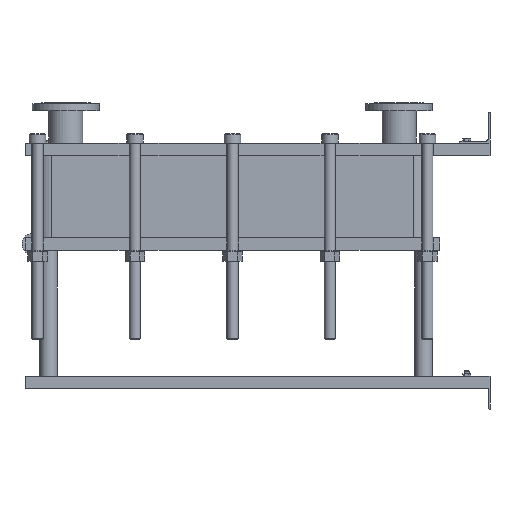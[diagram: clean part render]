
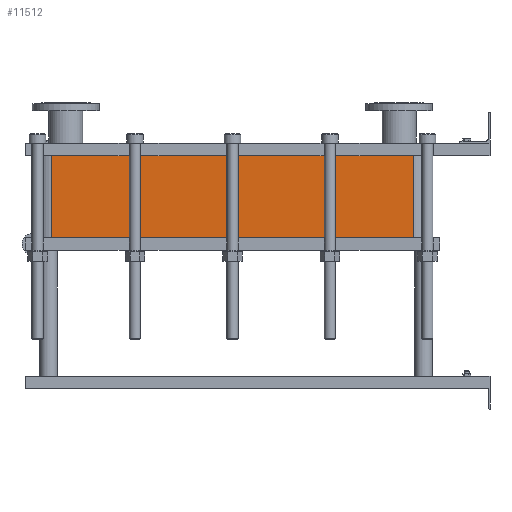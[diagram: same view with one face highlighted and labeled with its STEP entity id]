
A CAD part, left-side view. The second image highlights one B-rep face of the part: STEP entity #11512.
In plain terms, the highlighted planar face has unit normal (-1, 0, 0).
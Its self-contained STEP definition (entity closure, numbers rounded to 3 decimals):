
#1129=LINE('',#23232,#2102);
#1130=LINE('',#23236,#2103);
#1131=LINE('',#23238,#2104);
#1132=LINE('',#23239,#2105);
#2102=VECTOR('',#15887,10.);
#2103=VECTOR('',#15892,10.);
#2104=VECTOR('',#15893,10.);
#2105=VECTOR('',#15894,10.);
#3267=FACE_OUTER_BOUND('',#4093,.T.);
#4093=EDGE_LOOP('',(#10103,#10104,#10105,#10106));
#5642=VERTEX_POINT('',#23229);
#5643=VERTEX_POINT('',#23231);
#5644=VERTEX_POINT('',#23235);
#5645=VERTEX_POINT('',#23237);
#7159=EDGE_CURVE('',#5643,#5642,#1129,.T.);
#7161=EDGE_CURVE('',#5642,#5644,#1130,.T.);
#7162=EDGE_CURVE('',#5645,#5644,#1131,.T.);
#7163=EDGE_CURVE('',#5645,#5643,#1132,.T.);
#10103=ORIENTED_EDGE('',*,*,#7161,.T.);
#10104=ORIENTED_EDGE('',*,*,#7162,.F.);
#10105=ORIENTED_EDGE('',*,*,#7163,.T.);
#10106=ORIENTED_EDGE('',*,*,#7159,.T.);
#10857=PLANE('',#12751);
#11512=ADVANCED_FACE('',(#3267),#10857,.T.);
#12751=AXIS2_PLACEMENT_3D('',#23234,#15890,#15891);
#15887=DIRECTION('',(0.,0.,-1.));
#15890=DIRECTION('center_axis',(-1.,0.,0.));
#15891=DIRECTION('ref_axis',(0.,1.,0.));
#15892=DIRECTION('',(0.,-1.,0.));
#15893=DIRECTION('',(0.,0.,-1.));
#15894=DIRECTION('',(0.,1.,0.));
#23229=CARTESIAN_POINT('',(-200.,1414.,-265.65));
#23231=CARTESIAN_POINT('',(-200.,1414.,0.));
#23232=CARTESIAN_POINT('',(-200.,1414.,0.));
#23234=CARTESIAN_POINT('Origin',(-200.,248.,0.));
#23235=CARTESIAN_POINT('',(-200.,248.,-265.65));
#23236=CARTESIAN_POINT('',(-200.,539.5,-265.65));
#23237=CARTESIAN_POINT('',(-200.,248.,0.));
#23238=CARTESIAN_POINT('',(-200.,248.,0.));
#23239=CARTESIAN_POINT('',(-200.,248.,0.));
